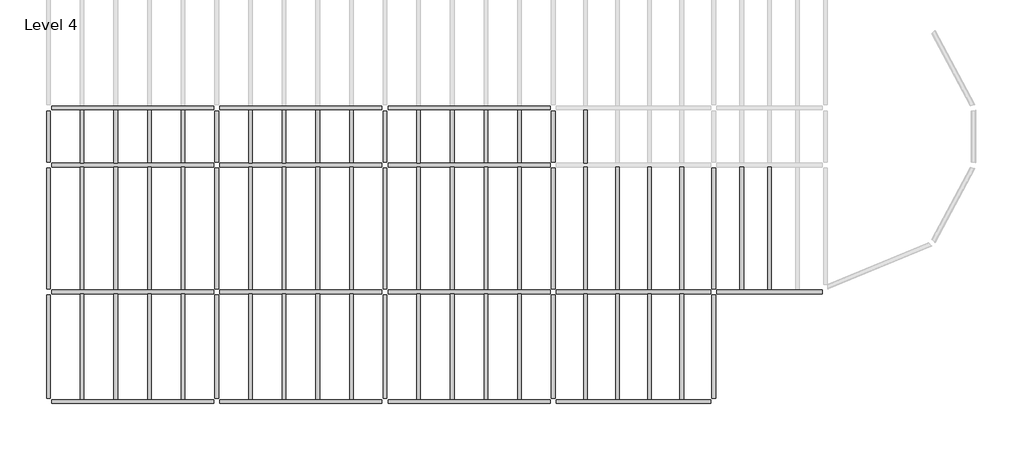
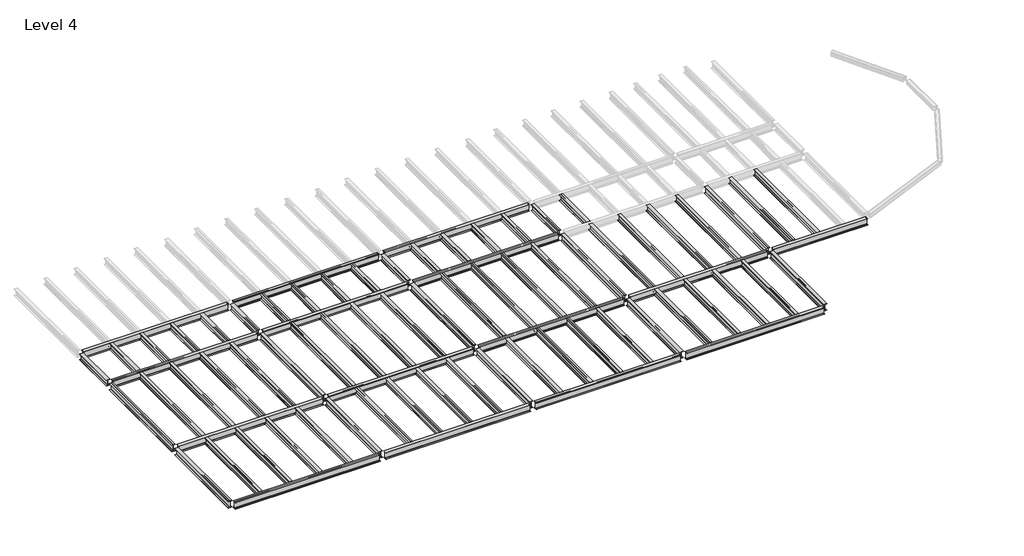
# One storey, part 1 of 2: 76 beams.
"""IFC4 building model written with IfcOpenShell, lengths in millimetres."""

from ifc_helpers import new_model, si_unit, origin, place, context, project, spatial, transform, mapped, element, save
from components import w_shapes_w12x26_ac08b433, w_shapes_w12x26_80971791, w_shapes_w12x26_13ab2ca8, w_shapes_w12x26_1a00c8bd, w_shapes_w14x30_2b5df836, w_shapes_w14x30_7cdcd298, w_shapes_w14x30_aa676985, w_shapes_w14x30_0fa609c7, w_shapes_w14x30_0dffa004

model = new_model("IFC4")

# Units and contexts
model_context = context("Model", 3, world=origin())
ifc_project = project(units=[si_unit("LENGTHUNIT", "METRE", prefix="MILLI")], contexts=[model_context])

# Site, building, storey
site = spatial("IfcSite", under=ifc_project)
building = spatial("IfcBuilding", under=site)
storey = spatial("IfcBuildingStorey", under=building, Name="Level 4", Elevation=10820.4)

# Beams
placement = place(None, origin())
w_shapes_w12x26_shape = w_shapes_w12x26_ac08b433(model_context)
element("IfcBeam", 1, ObjectType="W Shapes : W12X26", at=placement, inside=storey, context=model_context, shape_type="MappedRepresentation", body=[
    mapped(w_shapes_w12x26_shape, transform((-17242.6535279, -2505.8101681, 10665.46), x_axis=(0.0, -1.0, 0.0), y_axis=(1.0, 0.0, 0.0), z_axis=(0.0, 0.0, 1.0))),
])
element("IfcBeam", 2, ObjectType="W Shapes : W12X26", at=placement, inside=storey, context=model_context, shape_type="MappedRepresentation", body=[
    mapped(w_shapes_w12x26_shape, transform((-9622.6535279, -2505.8101681, 10665.46), x_axis=(0.0, -1.0, 0.0), y_axis=(1.0, 0.0, 0.0), z_axis=(0.0, 0.0, 1.0))),
])
element("IfcBeam", 3, ObjectType="W Shapes : W12X26", at=placement, inside=storey, context=model_context, shape_type="MappedRepresentation", body=[
    mapped(w_shapes_w12x26_shape, transform((-2002.6535279, -2505.8101681, 10665.46), x_axis=(0.0, -1.0, 0.0), y_axis=(1.0, 0.0, 0.0), z_axis=(0.0, 0.0, 1.0))),
])
element("IfcBeam", 4, ObjectType="W Shapes : W12X26", at=placement, inside=storey, context=model_context, shape_type="MappedRepresentation", body=[
    mapped(w_shapes_w12x26_shape, transform((5617.3464721, -2505.8101681, 10665.46), x_axis=(0.0, -1.0, 0.0), y_axis=(1.0, 0.0, 0.0), z_axis=(0.0, 0.0, 1.0))),
])
w_shapes_w12x26_2_shape = w_shapes_w12x26_80971791(model_context)
element("IfcBeam", 5, ObjectType="W Shapes : W12X26", at=placement, inside=storey, context=model_context, shape_type="MappedRepresentation", body=[
    mapped(w_shapes_w12x26_2_shape, transform((-11146.6535279, -12033.9851681, 10665.46), x_axis=(0.0, -1.0, 0.0), y_axis=(1.0, 0.0, 0.0), z_axis=(0.0, 0.0, 1.0))),
])
element("IfcBeam", 6, ObjectType="W Shapes : W12X26", at=placement, inside=storey, context=model_context, shape_type="MappedRepresentation", body=[
    mapped(w_shapes_w12x26_2_shape, transform((-12670.6535279, -12033.9851681, 10665.46), x_axis=(0.0, -1.0, 0.0), y_axis=(1.0, 0.0, 0.0), z_axis=(0.0, 0.0, 1.0))),
])
element("IfcBeam", 7, ObjectType="W Shapes : W12X26", at=placement, inside=storey, context=model_context, shape_type="MappedRepresentation", body=[
    mapped(w_shapes_w12x26_2_shape, transform((-14194.6535279, -12033.9851681, 10665.46), x_axis=(0.0, -1.0, 0.0), y_axis=(1.0, 0.0, 0.0), z_axis=(0.0, 0.0, 1.0))),
])
element("IfcBeam", 8, ObjectType="W Shapes : W12X26", at=placement, inside=storey, context=model_context, shape_type="MappedRepresentation", body=[
    mapped(w_shapes_w12x26_2_shape, transform((-15718.6535279, -12033.9851681, 10665.46), x_axis=(0.0, -1.0, 0.0), y_axis=(1.0, 0.0, 0.0), z_axis=(0.0, 0.0, 1.0))),
])
element("IfcBeam", 9, ObjectType="W Shapes : W12X26", at=placement, inside=storey, context=model_context, shape_type="MappedRepresentation", body=[
    mapped(w_shapes_w12x26_2_shape, transform((-3526.6535279, -12033.9851681, 10665.46), x_axis=(0.0, -1.0, 0.0), y_axis=(1.0, 0.0, 0.0), z_axis=(0.0, 0.0, 1.0))),
])
element("IfcBeam", 10, ObjectType="W Shapes : W12X26", at=placement, inside=storey, context=model_context, shape_type="MappedRepresentation", body=[
    mapped(w_shapes_w12x26_2_shape, transform((-5050.6535279, -12033.9851681, 10665.46), x_axis=(0.0, -1.0, 0.0), y_axis=(1.0, 0.0, 0.0), z_axis=(0.0, 0.0, 1.0))),
])
element("IfcBeam", 11, ObjectType="W Shapes : W12X26", at=placement, inside=storey, context=model_context, shape_type="MappedRepresentation", body=[
    mapped(w_shapes_w12x26_2_shape, transform((-6574.6535279, -12033.9851681, 10665.46), x_axis=(0.0, -1.0, 0.0), y_axis=(1.0, 0.0, 0.0), z_axis=(0.0, 0.0, 1.0))),
])
element("IfcBeam", 12, ObjectType="W Shapes : W12X26", at=placement, inside=storey, context=model_context, shape_type="MappedRepresentation", body=[
    mapped(w_shapes_w12x26_2_shape, transform((-8098.6535279, -12033.9851681, 10665.46), x_axis=(0.0, -1.0, 0.0), y_axis=(1.0, 0.0, 0.0), z_axis=(0.0, 0.0, 1.0))),
])
element("IfcBeam", 13, ObjectType="W Shapes : W12X26", at=placement, inside=storey, context=model_context, shape_type="MappedRepresentation", body=[
    mapped(w_shapes_w12x26_2_shape, transform((-478.6535279, -12033.9851681, 10665.46), x_axis=(0.0, 1.0, 0.0), y_axis=(-1.0, 0.0, 0.0), z_axis=(0.0, 0.0, 1.0))),
])
element("IfcBeam", 14, ObjectType="W Shapes : W12X26", at=placement, inside=storey, context=model_context, shape_type="MappedRepresentation", body=[
    mapped(w_shapes_w12x26_2_shape, transform((1045.3464721, -12033.9851681, 10665.46), x_axis=(0.0, 1.0, 0.0), y_axis=(-1.0, 0.0, 0.0), z_axis=(0.0, 0.0, 1.0))),
])
element("IfcBeam", 15, ObjectType="W Shapes : W12X26", at=placement, inside=storey, context=model_context, shape_type="MappedRepresentation", body=[
    mapped(w_shapes_w12x26_2_shape, transform((2569.3464721, -12033.9851681, 10665.46), x_axis=(0.0, 1.0, 0.0), y_axis=(-1.0, 0.0, 0.0), z_axis=(0.0, 0.0, 1.0))),
])
element("IfcBeam", 16, ObjectType="W Shapes : W12X26", at=placement, inside=storey, context=model_context, shape_type="MappedRepresentation", body=[
    mapped(w_shapes_w12x26_2_shape, transform((4093.3464721, -12033.9851681, 10665.46), x_axis=(0.0, 1.0, 0.0), y_axis=(-1.0, 0.0, 0.0), z_axis=(0.0, 0.0, 1.0))),
])
element("IfcBeam", 17, ObjectType="W Shapes : W12X26", at=placement, inside=storey, context=model_context, shape_type="MappedRepresentation", body=[
    mapped(w_shapes_w12x26_2_shape, transform((11431.4064721, -12033.9851681, 10665.46), x_axis=(0.0, -1.0, 0.0), y_axis=(1.0, 0.0, 0.0), z_axis=(0.0, 0.0, 1.0))),
])
element("IfcBeam", 18, ObjectType="W Shapes : W12X26", at=placement, inside=storey, context=model_context, shape_type="MappedRepresentation", body=[
    mapped(w_shapes_w12x26_2_shape, transform((9977.8914721, -12033.9851681, 10665.46), x_axis=(0.0, -1.0, 0.0), y_axis=(1.0, 0.0, 0.0), z_axis=(0.0, 0.0, 1.0))),
])
element("IfcBeam", 19, ObjectType="W Shapes : W12X26", at=placement, inside=storey, context=model_context, shape_type="MappedRepresentation", body=[
    mapped(w_shapes_w12x26_2_shape, transform((8524.3764721, -12033.9851681, 10665.46), x_axis=(0.0, -1.0, 0.0), y_axis=(1.0, 0.0, 0.0), z_axis=(0.0, 0.0, 1.0))),
])
element("IfcBeam", 20, ObjectType="W Shapes : W12X26", at=placement, inside=storey, context=model_context, shape_type="MappedRepresentation", body=[
    mapped(w_shapes_w12x26_2_shape, transform((7070.8614721, -12033.9851681, 10665.46), x_axis=(0.0, -1.0, 0.0), y_axis=(1.0, 0.0, 0.0), z_axis=(0.0, 0.0, 1.0))),
])
w_shapes_w12x26_3_shape = w_shapes_w12x26_13ab2ca8(model_context)
element("IfcBeam", 21, ObjectType="W Shapes : W12X26", at=placement, inside=storey, context=model_context, shape_type="MappedRepresentation", body=[
    mapped(w_shapes_w12x26_3_shape, transform((7070.8614721, -6674.5851681, 10665.46), x_axis=(0.0, 1.0, 0.0), y_axis=(-1.0, 0.0, 0.0), z_axis=(0.0, 0.0, 1.0))),
])
element("IfcBeam", 22, ObjectType="W Shapes : W12X26", at=placement, inside=storey, context=model_context, shape_type="MappedRepresentation", body=[
    mapped(w_shapes_w12x26_3_shape, transform((8524.3764721, -6674.5851681, 10665.46), x_axis=(0.0, 1.0, 0.0), y_axis=(-1.0, 0.0, 0.0), z_axis=(0.0, 0.0, 1.0))),
])
element("IfcBeam", 23, ObjectType="W Shapes : W12X26", at=placement, inside=storey, context=model_context, shape_type="MappedRepresentation", body=[
    mapped(w_shapes_w12x26_3_shape, transform((9977.8914721, -6674.5851681, 10665.46), x_axis=(0.0, 1.0, 0.0), y_axis=(-1.0, 0.0, 0.0), z_axis=(0.0, 0.0, 1.0))),
])
element("IfcBeam", 24, ObjectType="W Shapes : W12X26", at=placement, inside=storey, context=model_context, shape_type="MappedRepresentation", body=[
    mapped(w_shapes_w12x26_3_shape, transform((11431.4064721, -6674.5851681, 10665.46), x_axis=(0.0, 1.0, 0.0), y_axis=(-1.0, 0.0, 0.0), z_axis=(0.0, 0.0, 1.0))),
])
element("IfcBeam", 25, ObjectType="W Shapes : W12X26", at=placement, inside=storey, context=model_context, shape_type="MappedRepresentation", body=[
    mapped(w_shapes_w12x26_3_shape, transform((4093.3464721, -6674.5851681, 10665.46), x_axis=(0.0, -1.0, 0.0), y_axis=(1.0, 0.0, 0.0), z_axis=(0.0, 0.0, 1.0))),
])
element("IfcBeam", 26, ObjectType="W Shapes : W12X26", at=placement, inside=storey, context=model_context, shape_type="MappedRepresentation", body=[
    mapped(w_shapes_w12x26_3_shape, transform((2569.3464721, -6674.5851681, 10665.46), x_axis=(0.0, -1.0, 0.0), y_axis=(1.0, 0.0, 0.0), z_axis=(0.0, 0.0, 1.0))),
])
element("IfcBeam", 27, ObjectType="W Shapes : W12X26", at=placement, inside=storey, context=model_context, shape_type="MappedRepresentation", body=[
    mapped(w_shapes_w12x26_3_shape, transform((1045.3464721, -6674.5851681, 10665.46), x_axis=(0.0, -1.0, 0.0), y_axis=(1.0, 0.0, 0.0), z_axis=(0.0, 0.0, 1.0))),
])
element("IfcBeam", 28, ObjectType="W Shapes : W12X26", at=placement, inside=storey, context=model_context, shape_type="MappedRepresentation", body=[
    mapped(w_shapes_w12x26_3_shape, transform((-478.6535279, -6674.5851681, 10665.46), x_axis=(0.0, -1.0, 0.0), y_axis=(1.0, 0.0, 0.0), z_axis=(0.0, 0.0, 1.0))),
])
element("IfcBeam", 29, ObjectType="W Shapes : W12X26", at=placement, inside=storey, context=model_context, shape_type="MappedRepresentation", body=[
    mapped(w_shapes_w12x26_3_shape, transform((-8098.6535279, -6674.5851681, 10665.46), x_axis=(0.0, 1.0, 0.0), y_axis=(-1.0, 0.0, 0.0), z_axis=(0.0, 0.0, 1.0))),
])
element("IfcBeam", 30, ObjectType="W Shapes : W12X26", at=placement, inside=storey, context=model_context, shape_type="MappedRepresentation", body=[
    mapped(w_shapes_w12x26_3_shape, transform((-6574.6535279, -6674.5851681, 10665.46), x_axis=(0.0, 1.0, 0.0), y_axis=(-1.0, 0.0, 0.0), z_axis=(0.0, 0.0, 1.0))),
])
element("IfcBeam", 31, ObjectType="W Shapes : W12X26", at=placement, inside=storey, context=model_context, shape_type="MappedRepresentation", body=[
    mapped(w_shapes_w12x26_3_shape, transform((-5050.6535279, -6674.5851681, 10665.46), x_axis=(0.0, 1.0, 0.0), y_axis=(-1.0, 0.0, 0.0), z_axis=(0.0, 0.0, 1.0))),
])
element("IfcBeam", 32, ObjectType="W Shapes : W12X26", at=placement, inside=storey, context=model_context, shape_type="MappedRepresentation", body=[
    mapped(w_shapes_w12x26_3_shape, transform((-3526.6535279, -6674.5851681, 10665.46), x_axis=(0.0, 1.0, 0.0), y_axis=(-1.0, 0.0, 0.0), z_axis=(0.0, 0.0, 1.0))),
])
element("IfcBeam", 33, ObjectType="W Shapes : W12X26", at=placement, inside=storey, context=model_context, shape_type="MappedRepresentation", body=[
    mapped(w_shapes_w12x26_3_shape, transform((-11146.6535279, -6674.5851681, 10665.46), x_axis=(0.0, -1.0, 0.0), y_axis=(1.0, 0.0, 0.0), z_axis=(0.0, 0.0, 1.0))),
])
element("IfcBeam", 34, ObjectType="W Shapes : W12X26", at=placement, inside=storey, context=model_context, shape_type="MappedRepresentation", body=[
    mapped(w_shapes_w12x26_3_shape, transform((-12670.6535279, -6674.5851681, 10665.46), x_axis=(0.0, -1.0, 0.0), y_axis=(1.0, 0.0, 0.0), z_axis=(0.0, 0.0, 1.0))),
])
element("IfcBeam", 35, ObjectType="W Shapes : W12X26", at=placement, inside=storey, context=model_context, shape_type="MappedRepresentation", body=[
    mapped(w_shapes_w12x26_3_shape, transform((-14194.6535279, -6674.5851681, 10665.46), x_axis=(0.0, -1.0, 0.0), y_axis=(1.0, 0.0, 0.0), z_axis=(0.0, 0.0, 1.0))),
])
element("IfcBeam", 36, ObjectType="W Shapes : W12X26", at=placement, inside=storey, context=model_context, shape_type="MappedRepresentation", body=[
    mapped(w_shapes_w12x26_3_shape, transform((-15718.6535279, -6674.5851681, 10665.46), x_axis=(0.0, -1.0, 0.0), y_axis=(1.0, 0.0, 0.0), z_axis=(0.0, 0.0, 1.0))),
])
element("IfcBeam", 37, ObjectType="W Shapes : W12X26", at=placement, inside=storey, context=model_context, shape_type="MappedRepresentation", body=[
    mapped(w_shapes_w12x26_3_shape, transform((15411.4277221, -6674.5851681, 10665.46), x_axis=(0.0, 1.0, 0.0), y_axis=(-1.0, 0.0, 0.0), z_axis=(0.0, 0.0, 1.0))),
])
element("IfcBeam", 38, ObjectType="W Shapes : W12X26", at=placement, inside=storey, context=model_context, shape_type="MappedRepresentation", body=[
    mapped(w_shapes_w12x26_3_shape, transform((14148.1745971, -6674.5851681, 10665.46), x_axis=(0.0, 1.0, 0.0), y_axis=(-1.0, 0.0, 0.0), z_axis=(0.0, 0.0, 1.0))),
])
w_shapes_w12x26_4_shape = w_shapes_w12x26_1a00c8bd(model_context)
element("IfcBeam", 39, ObjectType="W Shapes : W12X26", at=placement, inside=storey, context=model_context, shape_type="MappedRepresentation", body=[
    mapped(w_shapes_w12x26_4_shape, transform((-11146.6535279, -2505.8101681, 10665.46), x_axis=(0.0, -1.0, 0.0), y_axis=(1.0, 0.0, 0.0), z_axis=(0.0, 0.0, 1.0))),
])
element("IfcBeam", 40, ObjectType="W Shapes : W12X26", at=placement, inside=storey, context=model_context, shape_type="MappedRepresentation", body=[
    mapped(w_shapes_w12x26_4_shape, transform((-12670.6535279, -2505.8101681, 10665.46), x_axis=(0.0, -1.0, 0.0), y_axis=(1.0, 0.0, 0.0), z_axis=(0.0, 0.0, 1.0))),
])
element("IfcBeam", 41, ObjectType="W Shapes : W12X26", at=placement, inside=storey, context=model_context, shape_type="MappedRepresentation", body=[
    mapped(w_shapes_w12x26_4_shape, transform((-14194.6535279, -2505.8101681, 10665.46), x_axis=(0.0, -1.0, 0.0), y_axis=(1.0, 0.0, 0.0), z_axis=(0.0, 0.0, 1.0))),
])
element("IfcBeam", 42, ObjectType="W Shapes : W12X26", at=placement, inside=storey, context=model_context, shape_type="MappedRepresentation", body=[
    mapped(w_shapes_w12x26_4_shape, transform((-15718.6535279, -2505.8101681, 10665.46), x_axis=(0.0, -1.0, 0.0), y_axis=(1.0, 0.0, 0.0), z_axis=(0.0, 0.0, 1.0))),
])
element("IfcBeam", 43, ObjectType="W Shapes : W12X26", at=placement, inside=storey, context=model_context, shape_type="MappedRepresentation", body=[
    mapped(w_shapes_w12x26_4_shape, transform((-3526.6535279, -2505.8101681, 10665.46), x_axis=(0.0, -1.0, 0.0), y_axis=(1.0, 0.0, 0.0), z_axis=(0.0, 0.0, 1.0))),
])
element("IfcBeam", 44, ObjectType="W Shapes : W12X26", at=placement, inside=storey, context=model_context, shape_type="MappedRepresentation", body=[
    mapped(w_shapes_w12x26_4_shape, transform((-5050.6535279, -2505.8101681, 10665.46), x_axis=(0.0, -1.0, 0.0), y_axis=(1.0, 0.0, 0.0), z_axis=(0.0, 0.0, 1.0))),
])
element("IfcBeam", 45, ObjectType="W Shapes : W12X26", at=placement, inside=storey, context=model_context, shape_type="MappedRepresentation", body=[
    mapped(w_shapes_w12x26_4_shape, transform((-6574.6535279, -2505.8101681, 10665.46), x_axis=(0.0, -1.0, 0.0), y_axis=(1.0, 0.0, 0.0), z_axis=(0.0, 0.0, 1.0))),
])
element("IfcBeam", 46, ObjectType="W Shapes : W12X26", at=placement, inside=storey, context=model_context, shape_type="MappedRepresentation", body=[
    mapped(w_shapes_w12x26_4_shape, transform((-8098.6535279, -2505.8101681, 10665.46), x_axis=(0.0, -1.0, 0.0), y_axis=(1.0, 0.0, 0.0), z_axis=(0.0, 0.0, 1.0))),
])
element("IfcBeam", 47, ObjectType="W Shapes : W12X26", at=placement, inside=storey, context=model_context, shape_type="MappedRepresentation", body=[
    mapped(w_shapes_w12x26_4_shape, transform((4093.3464721, -2505.8101681, 10665.46), x_axis=(0.0, -1.0, 0.0), y_axis=(1.0, 0.0, 0.0), z_axis=(0.0, 0.0, 1.0))),
])
element("IfcBeam", 48, ObjectType="W Shapes : W12X26", at=placement, inside=storey, context=model_context, shape_type="MappedRepresentation", body=[
    mapped(w_shapes_w12x26_4_shape, transform((2569.3464721, -2505.8101681, 10665.46), x_axis=(0.0, -1.0, 0.0), y_axis=(1.0, 0.0, 0.0), z_axis=(0.0, 0.0, 1.0))),
])
element("IfcBeam", 49, ObjectType="W Shapes : W12X26", at=placement, inside=storey, context=model_context, shape_type="MappedRepresentation", body=[
    mapped(w_shapes_w12x26_4_shape, transform((1045.3464721, -2505.8101681, 10665.46), x_axis=(0.0, -1.0, 0.0), y_axis=(1.0, 0.0, 0.0), z_axis=(0.0, 0.0, 1.0))),
])
element("IfcBeam", 50, ObjectType="W Shapes : W12X26", at=placement, inside=storey, context=model_context, shape_type="MappedRepresentation", body=[
    mapped(w_shapes_w12x26_4_shape, transform((-478.6535279, -2505.8101681, 10665.46), x_axis=(0.0, -1.0, 0.0), y_axis=(1.0, 0.0, 0.0), z_axis=(0.0, 0.0, 1.0))),
])
element("IfcBeam", 51, ObjectType="W Shapes : W12X26", at=placement, inside=storey, context=model_context, shape_type="MappedRepresentation", body=[
    mapped(w_shapes_w12x26_4_shape, transform((7070.8614721, -2505.8101681, 10665.46), x_axis=(0.0, -1.0, 0.0), y_axis=(1.0, 0.0, 0.0), z_axis=(0.0, 0.0, 1.0))),
])
w_shapes_w14x30_shape = w_shapes_w14x30_2b5df836(model_context)
element("IfcBeam", 52, ObjectType="W Shapes : W14X30", at=placement, inside=storey, context=model_context, shape_type="MappedRepresentation", body=[
    mapped(w_shapes_w14x30_shape, transform((1807.3464721, -1208.8226681, 10645.14), x_axis=(-1.0, 0.0, 0.0), y_axis=(0.0, -1.0, 0.0), z_axis=(0.0, 0.0, 1.0))),
])
element("IfcBeam", 53, ObjectType="W Shapes : W14X30", at=placement, inside=storey, context=model_context, shape_type="MappedRepresentation", body=[
    mapped(w_shapes_w14x30_shape, transform((-5812.6535279, -1208.8226681, 10645.14), x_axis=(-1.0, 0.0, 0.0), y_axis=(0.0, -1.0, 0.0), z_axis=(0.0, 0.0, 1.0))),
])
element("IfcBeam", 54, ObjectType="W Shapes : W14X30", at=placement, inside=storey, context=model_context, shape_type="MappedRepresentation", body=[
    mapped(w_shapes_w14x30_shape, transform((-13432.6535279, -1208.8226681, 10645.14), x_axis=(-1.0, 0.0, 0.0), y_axis=(0.0, -1.0, 0.0), z_axis=(0.0, 0.0, 1.0))),
])
element("IfcBeam", 55, ObjectType="W Shapes : W14X30", at=placement, inside=storey, context=model_context, shape_type="MappedRepresentation", body=[
    mapped(w_shapes_w14x30_shape, transform((-13432.6535279, -3802.7976681, 10645.14), x_axis=(1.0, 0.0, 0.0), y_axis=(0.0, 1.0, 0.0), z_axis=(0.0, 0.0, 1.0))),
])
element("IfcBeam", 56, ObjectType="W Shapes : W14X30", at=placement, inside=storey, context=model_context, shape_type="MappedRepresentation", body=[
    mapped(w_shapes_w14x30_shape, transform((-5812.6535279, -3802.7976681, 10645.14), x_axis=(1.0, 0.0, 0.0), y_axis=(0.0, 1.0, 0.0), z_axis=(0.0, 0.0, 1.0))),
])
element("IfcBeam", 57, ObjectType="W Shapes : W14X30", at=placement, inside=storey, context=model_context, shape_type="MappedRepresentation", body=[
    mapped(w_shapes_w14x30_shape, transform((1807.3464721, -3802.7976681, 10645.14), x_axis=(1.0, 0.0, 0.0), y_axis=(0.0, 1.0, 0.0), z_axis=(0.0, 0.0, 1.0))),
])
element("IfcBeam", 58, ObjectType="W Shapes : W14X30", at=placement, inside=storey, context=model_context, shape_type="MappedRepresentation", body=[
    mapped(w_shapes_w14x30_shape, transform((1807.3464721, -9546.3726681, 10645.14), x_axis=(-1.0, 0.0, 0.0), y_axis=(0.0, -1.0, 0.0), z_axis=(0.0, 0.0, 1.0))),
])
element("IfcBeam", 59, ObjectType="W Shapes : W14X30", at=placement, inside=storey, context=model_context, shape_type="MappedRepresentation", body=[
    mapped(w_shapes_w14x30_shape, transform((-5812.6535279, -9546.3726681, 10645.14), x_axis=(-1.0, 0.0, 0.0), y_axis=(0.0, -1.0, 0.0), z_axis=(0.0, 0.0, 1.0))),
])
element("IfcBeam", 60, ObjectType="W Shapes : W14X30", at=placement, inside=storey, context=model_context, shape_type="MappedRepresentation", body=[
    mapped(w_shapes_w14x30_shape, transform((-13432.6535279, -9546.3726681, 10645.14), x_axis=(-1.0, 0.0, 0.0), y_axis=(0.0, -1.0, 0.0), z_axis=(0.0, 0.0, 1.0))),
])
element("IfcBeam", 61, ObjectType="W Shapes : W14X30", at=placement, inside=storey, context=model_context, shape_type="MappedRepresentation", body=[
    mapped(w_shapes_w14x30_shape, transform((-13432.6535279, -14521.5976681, 10645.14), x_axis=(1.0, 0.0, 0.0), y_axis=(0.0, 1.0, 0.0), z_axis=(0.0, 0.0, 1.0))),
])
element("IfcBeam", 62, ObjectType="W Shapes : W14X30", at=placement, inside=storey, context=model_context, shape_type="MappedRepresentation", body=[
    mapped(w_shapes_w14x30_shape, transform((-5812.6535279, -14521.5976681, 10645.14), x_axis=(1.0, 0.0, 0.0), y_axis=(0.0, 1.0, 0.0), z_axis=(0.0, 0.0, 1.0))),
])
element("IfcBeam", 63, ObjectType="W Shapes : W14X30", at=placement, inside=storey, context=model_context, shape_type="MappedRepresentation", body=[
    mapped(w_shapes_w14x30_shape, transform((1807.3464721, -14521.5976681, 10645.14), x_axis=(1.0, 0.0, 0.0), y_axis=(0.0, 1.0, 0.0), z_axis=(0.0, 0.0, 1.0))),
])
w_shapes_w14x30_2_shape = w_shapes_w14x30_7cdcd298(model_context)
element("IfcBeam", 64, ObjectType="W Shapes : W14X30", at=placement, inside=storey, context=model_context, shape_type="MappedRepresentation", body=[
    mapped(w_shapes_w14x30_2_shape, transform((9251.1339721, -9546.3726681, 10645.14), x_axis=(-1.0, 0.0, 0.0), y_axis=(0.0, -1.0, 0.0), z_axis=(0.0, 0.0, 1.0))),
])
element("IfcBeam", 65, ObjectType="W Shapes : W14X30", at=placement, inside=storey, context=model_context, shape_type="MappedRepresentation", body=[
    mapped(w_shapes_w14x30_2_shape, transform((9251.1339721, -14521.5976681, 10645.14), x_axis=(1.0, 0.0, 0.0), y_axis=(0.0, 1.0, 0.0), z_axis=(0.0, 0.0, 1.0))),
])
w_shapes_w14x30_3_shape = w_shapes_w14x30_aa676985(model_context)
element("IfcBeam", 66, ObjectType="W Shapes : W14X30", at=placement, inside=storey, context=model_context, shape_type="MappedRepresentation", body=[
    mapped(w_shapes_w14x30_3_shape, transform((-17242.6535279, -12033.9851681, 10645.14), x_axis=(0.0, -1.0, 0.0), y_axis=(1.0, 0.0, 0.0), z_axis=(0.0, 0.0, 1.0))),
])
element("IfcBeam", 67, ObjectType="W Shapes : W14X30", at=placement, inside=storey, context=model_context, shape_type="MappedRepresentation", body=[
    mapped(w_shapes_w14x30_3_shape, transform((12884.9214721, -12033.9851681, 10645.14), x_axis=(0.0, 1.0, 0.0), y_axis=(-1.0, 0.0, 0.0), z_axis=(0.0, 0.0, 1.0))),
])
element("IfcBeam", 68, ObjectType="W Shapes : W14X30", at=placement, inside=storey, context=model_context, shape_type="MappedRepresentation", body=[
    mapped(w_shapes_w14x30_3_shape, transform((-9622.6535279, -12033.9851681, 10645.14), x_axis=(0.0, -1.0, 0.0), y_axis=(1.0, 0.0, 0.0), z_axis=(0.0, 0.0, 1.0))),
])
element("IfcBeam", 69, ObjectType="W Shapes : W14X30", at=placement, inside=storey, context=model_context, shape_type="MappedRepresentation", body=[
    mapped(w_shapes_w14x30_3_shape, transform((-2002.6535279, -12033.9851681, 10645.14), x_axis=(0.0, 1.0, 0.0), y_axis=(-1.0, 0.0, 0.0), z_axis=(0.0, 0.0, 1.0))),
])
element("IfcBeam", 70, ObjectType="W Shapes : W14X30", at=placement, inside=storey, context=model_context, shape_type="MappedRepresentation", body=[
    mapped(w_shapes_w14x30_3_shape, transform((5617.3464721, -12033.9851681, 10645.14), x_axis=(0.0, -1.0, 0.0), y_axis=(1.0, 0.0, 0.0), z_axis=(0.0, 0.0, 1.0))),
])
w_shapes_w14x30_4_shape = w_shapes_w14x30_0fa609c7(model_context)
element("IfcBeam", 71, ObjectType="W Shapes : W14X30", at=placement, inside=storey, context=model_context, shape_type="MappedRepresentation", body=[
    mapped(w_shapes_w14x30_4_shape, transform((15411.4277221, -9546.3726681, 10645.14), x_axis=(-1.0, 0.0, 0.0), y_axis=(0.0, -1.0, 0.0), z_axis=(0.0, 0.0, 1.0))),
])
w_shapes_w14x30_5_shape = w_shapes_w14x30_0dffa004(model_context)
element("IfcBeam", 72, ObjectType="W Shapes : W14X30", at=placement, inside=storey, context=model_context, shape_type="MappedRepresentation", body=[
    mapped(w_shapes_w14x30_5_shape, transform((12884.9214721, -6674.5851681, 10645.14), x_axis=(0.0, 1.0, 0.0), y_axis=(-1.0, 0.0, 0.0), z_axis=(0.0, 0.0, 1.0))),
])
element("IfcBeam", 73, ObjectType="W Shapes : W14X30", at=placement, inside=storey, context=model_context, shape_type="MappedRepresentation", body=[
    mapped(w_shapes_w14x30_5_shape, transform((-17242.6535279, -6674.5851681, 10645.14), x_axis=(0.0, 1.0, 0.0), y_axis=(-1.0, 0.0, 0.0), z_axis=(0.0, 0.0, 1.0))),
])
element("IfcBeam", 74, ObjectType="W Shapes : W14X30", at=placement, inside=storey, context=model_context, shape_type="MappedRepresentation", body=[
    mapped(w_shapes_w14x30_5_shape, transform((-9622.6535279, -6674.5851681, 10645.14), x_axis=(0.0, -1.0, 0.0), y_axis=(1.0, 0.0, 0.0), z_axis=(0.0, 0.0, 1.0))),
])
element("IfcBeam", 75, ObjectType="W Shapes : W14X30", at=placement, inside=storey, context=model_context, shape_type="MappedRepresentation", body=[
    mapped(w_shapes_w14x30_5_shape, transform((-2002.6535279, -6674.5851681, 10645.14), x_axis=(0.0, 1.0, 0.0), y_axis=(-1.0, 0.0, 0.0), z_axis=(0.0, 0.0, 1.0))),
])
element("IfcBeam", 76, ObjectType="W Shapes : W14X30", at=placement, inside=storey, context=model_context, shape_type="MappedRepresentation", body=[
    mapped(w_shapes_w14x30_5_shape, transform((5617.3464721, -6674.5851681, 10645.14), x_axis=(0.0, -1.0, 0.0), y_axis=(1.0, 0.0, 0.0), z_axis=(0.0, 0.0, 1.0))),
])

save(model, "model.ifc")
